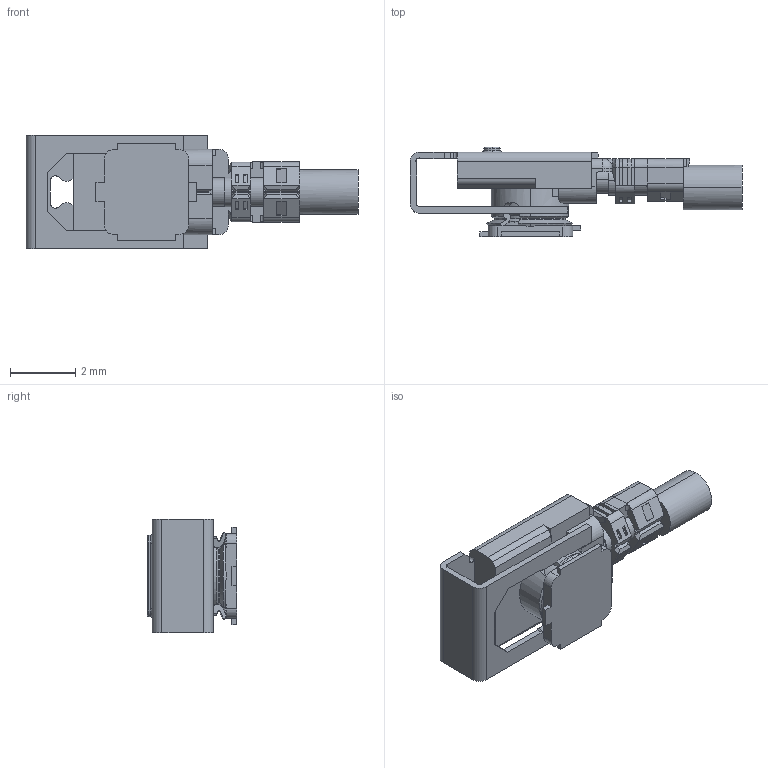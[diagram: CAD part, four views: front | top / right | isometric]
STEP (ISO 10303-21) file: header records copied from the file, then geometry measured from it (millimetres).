
FILE_DESCRIPTION (( 'STEP AP203' ), '1' );
FILE_NAME ('20351-1xxR-37+3376-000x+20279-001E-0xC MATING (UNLOCK) STEP R8R0R9 ALL.STEP', '2023-11-08T05:54:43', ( '' ), ( '' ), 'SwSTEP 2.0', 'SolidWorks 2023', '' );
FILE_SCHEMA (( 'CONFIG_CONTROL_DESIGN' ));
Length unit declared in the file: millimetre
Products named in the file (1): 20351-1xxR-37+3376-000x+20279-001E-0xC MATING (UNLOCK) STEP R8R0R9 ALL
Bounding box: 10.2 x 2.75 x 3.5 mm (x, y, z)
Volume: 35.7 mm3; surface area: 134.5 mm2
Topology: 1 solids, 1 shells, 409 faces, 1142 edges, 734 vertices
Faces by surface type: plane 246, cylinder 115, cone 24, bspline 14, torus 8, sphere 2
Entity records: 13681 total; most frequent: CARTESIAN_POINT 3170, ORIENTED_EDGE 2276, DIRECTION 2077, EDGE_CURVE 1138, VECTOR 769, LINE 769, VERTEX_POINT 734, AXIS2_PLACEMENT_3D 654
